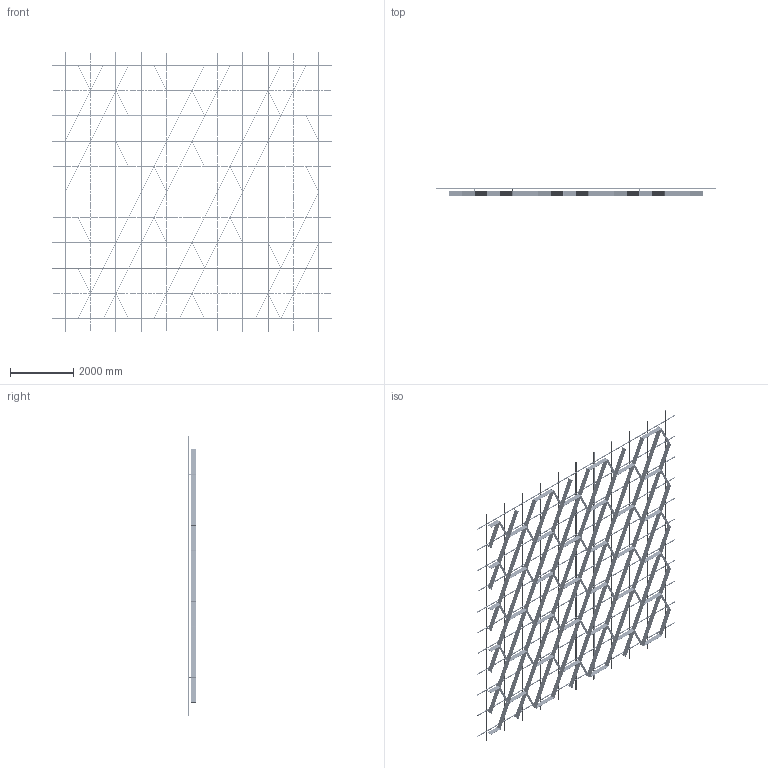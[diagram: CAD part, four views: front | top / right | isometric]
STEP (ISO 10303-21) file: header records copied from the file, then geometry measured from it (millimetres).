
FILE_DESCRIPTION (( 'STEP AP214' ), '1' );
FILE_NAME ('OPT_Var26.STEP', '2025-09-11T13:07:54', ( '' ), ( '' ), 'SwSTEP 2.0', 'SolidWorks 2020', '' );
FILE_SCHEMA (( 'AUTOMOTIVE_DESIGN' ));
Length unit declared in the file: millimetre
Products named in the file (5): SS.SEMA.2400 - Ñèìà-ïðîôèëü — îáðåçàí 1600; OPT_Var26; SS.SEMA.2400 - Ñèìà-ïðîôèëü; Ñèñòåìà â çîíå 8000õ8000; 謶鎷ar26
Assembly tree (90 placements, depth 3):
  OPT_Var26
    Ñèñòåìà â çîíå 8000õ8000
      SS.SEMA.2400 - Ñèìà-ïðîôèëü  x66
      SS.SEMA.2400 - Ñèìà-ïðîôèëü — îáðåçàí 1600  x22
    謶鎷ar26
Bounding box: 8800 x 253 x 8800 mm (x, y, z)
Volume: 196987520.8 mm3; surface area: 75364371.6 mm2
Topology: 616 solids, 616 shells, 18916 faces, 51644 edges, 33960 vertices
Faces by surface type: cylinder 12610, plane 6306
Entity records: 72985 total; most frequent: CARTESIAN_POINT 15082, DIRECTION 10194, ORIENTED_EDGE 10136, EDGE_CURVE 5068, AXIS2_PLACEMENT_3D 4848, VERTEX_POINT 3368, EDGE_LOOP 2922, ADVANCED_FACE 2760
